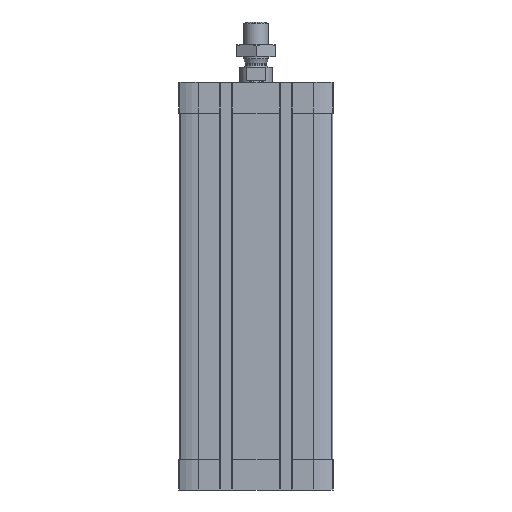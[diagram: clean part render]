
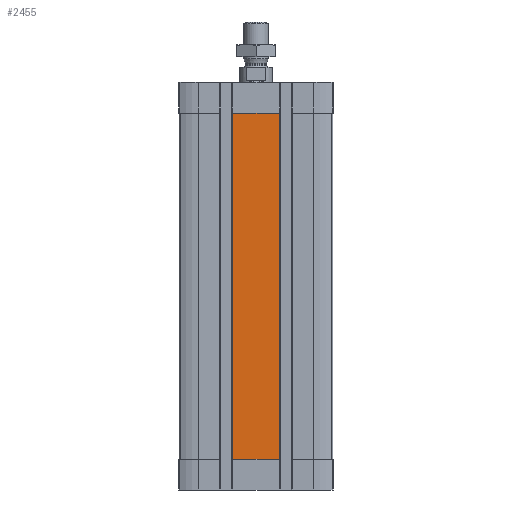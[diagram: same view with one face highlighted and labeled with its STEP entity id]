
A CAD part, front view. The second image highlights one B-rep face of the part: STEP entity #2455.
In plain terms, the highlighted planar face has unit normal (0, -1, 0).
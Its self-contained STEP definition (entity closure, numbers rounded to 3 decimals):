
#73 = DIRECTION ( 'NONE',  ( 1., 0., 0. ) ) ;
#800 = EDGE_LOOP ( 'NONE', ( #2073, #6642, #15940, #7689 ) ) ;
#1315 = CARTESIAN_POINT ( 'NONE',  ( -11.4, -37.5, -15. ) ) ;
#1397 = CARTESIAN_POINT ( 'NONE',  ( -11.4, -37.5, -184. ) ) ;
#1406 = DIRECTION ( 'NONE',  ( 0., 0., -1. ) ) ;
#2073 = ORIENTED_EDGE ( 'NONE', *, *, #14009, .T. ) ;
#2455 = ADVANCED_FACE ( 'NONE', ( #8439 ), #16003, .T. ) ;
#2638 = VERTEX_POINT ( 'NONE', #1315 ) ;
#3193 = VERTEX_POINT ( 'NONE', #11250 ) ;
#4102 = CARTESIAN_POINT ( 'NONE',  ( 0., -37.5, -15. ) ) ;
#5365 = VECTOR ( 'NONE', #73, 1000. ) ;
#5479 = LINE ( 'NONE', #1397, #5365 ) ;
#5660 = AXIS2_PLACEMENT_3D ( 'NONE', #12935, #11471, #1406 ) ;
#5753 = EDGE_CURVE ( 'NONE', #14011, #3193, #12267, .T. ) ;
#6194 = EDGE_CURVE ( 'NONE', #2638, #9147, #11042, .T. ) ;
#6642 = ORIENTED_EDGE ( 'NONE', *, *, #5753, .T. ) ;
#7689 = ORIENTED_EDGE ( 'NONE', *, *, #6194, .T. ) ;
#8439 = FACE_OUTER_BOUND ( 'NONE', #800, .T. ) ;
#9147 = VERTEX_POINT ( 'NONE', #14481 ) ;
#9926 = VECTOR ( 'NONE', #10307, 1000. ) ;
#10131 = LINE ( 'NONE', #4102, #9926 ) ;
#10307 = DIRECTION ( 'NONE',  ( -1., 0., 0. ) ) ;
#11025 = VECTOR ( 'NONE', #13983, 1000. ) ;
#11042 = LINE ( 'NONE', #15204, #11025 ) ;
#11250 = CARTESIAN_POINT ( 'NONE',  ( 11.4, -37.5, -15. ) ) ;
#11471 = DIRECTION ( 'NONE',  ( 0., -1., 0. ) ) ;
#12161 = CARTESIAN_POINT ( 'NONE',  ( 11.4, -37.5, -184. ) ) ;
#12194 = DIRECTION ( 'NONE',  ( 0., 0., 1. ) ) ;
#12198 = VECTOR ( 'NONE', #12194, 1000. ) ;
#12267 = LINE ( 'NONE', #12161, #12198 ) ;
#12599 = CARTESIAN_POINT ( 'NONE',  ( 11.4, -37.5, -184. ) ) ;
#12935 = CARTESIAN_POINT ( 'NONE',  ( -11.4, -37.5, -184. ) ) ;
#13259 = EDGE_CURVE ( 'NONE', #3193, #2638, #10131, .T. ) ;
#13983 = DIRECTION ( 'NONE',  ( 0., 0., -1. ) ) ;
#14009 = EDGE_CURVE ( 'NONE', #9147, #14011, #5479, .T. ) ;
#14011 = VERTEX_POINT ( 'NONE', #12599 ) ;
#14481 = CARTESIAN_POINT ( 'NONE',  ( -11.4, -37.5, -184. ) ) ;
#15204 = CARTESIAN_POINT ( 'NONE',  ( -11.4, -37.5, -184. ) ) ;
#15940 = ORIENTED_EDGE ( 'NONE', *, *, #13259, .T. ) ;
#16003 = PLANE ( 'NONE',  #5660 ) ;
